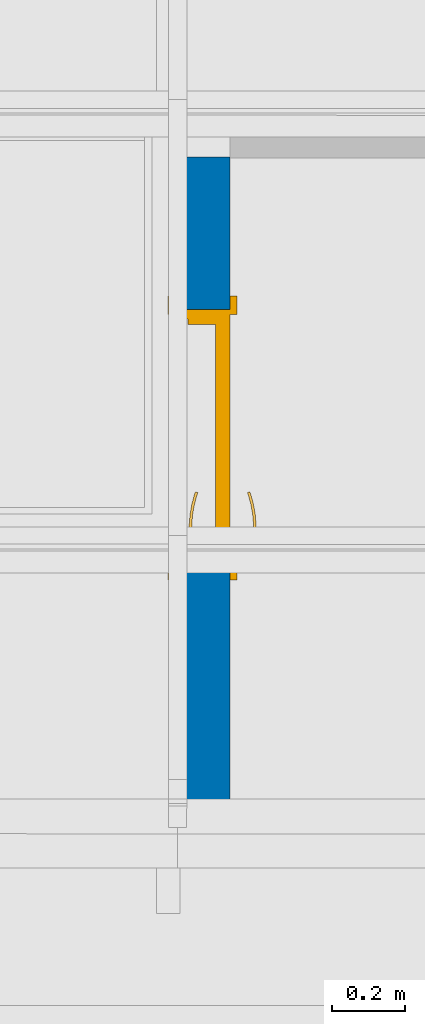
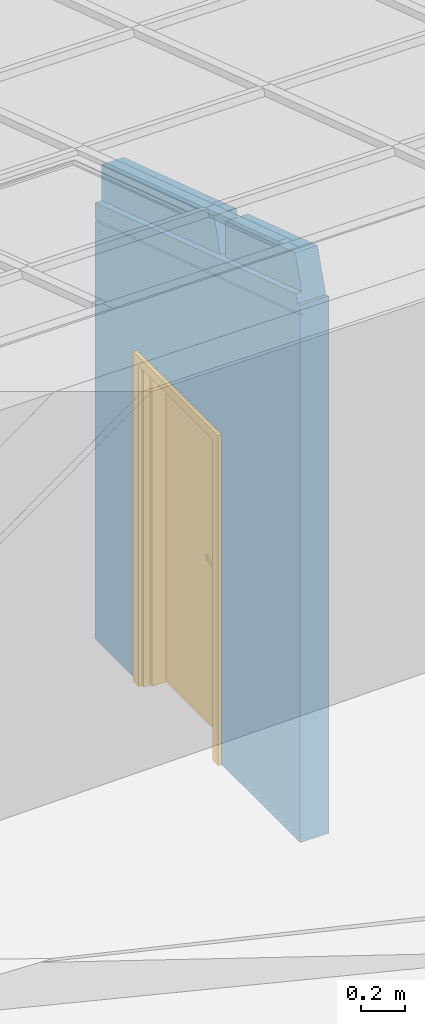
# One storey, part 19 of 47: 1 door, 1 wall, 1 opening.
"""IFC2X3 building model written with IfcOpenShell, lengths in millimetres."""

from ifc_helpers import new_model, entity, si_unit, converted_unit, derived_unit, money_unit, direction, frame, origin_with_axes, origin_2d_with_axis, place, context, subcontext, project, spatial, polyline, rectangle, outline, extrude, boolean, open_shell, faceted_brep, surface_model, material, type_object, element, fill, save


model = new_model("IFC2X3")

# Units and contexts
model_context = context("Model", 3, precision=1e-05, world=origin_with_axes(), true_north=direction((0.0, 1.0)))
body_context = subcontext(model_context, "Body", "Model", "MODEL_VIEW")
ifc_project = project(units=[si_unit("LENGTHUNIT", "METRE", prefix="MILLI"), si_unit("AREAUNIT", "SQUARE_METRE"), si_unit("VOLUMEUNIT", "CUBIC_METRE"), converted_unit("PLANEANGLEUNIT", "DEGREE", entity("IfcPlaneAngleMeasure", 0.0174532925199), si_unit("PLANEANGLEUNIT", "RADIAN"), dimensions=[0, 0, 0, 0, 0, 0, 0]), si_unit("SOLIDANGLEUNIT", "STERADIAN"), money_unit("EUR"), converted_unit("TIMEUNIT", "Year", entity("IfcTimeMeasure", 31556926.0), si_unit("TIMEUNIT", "SECOND"), dimensions=[0, 0, 1, 0, 0, 0, 0]), si_unit("MASSUNIT", "GRAM", prefix="KILO"), si_unit("THERMODYNAMICTEMPERATUREUNIT", "DEGREE_CELSIUS"), si_unit("LUMINOUSINTENSITYUNIT", "LUMEN"), si_unit("ENERGYUNIT", "JOULE", prefix="MEGA"), derived_unit("THERMALCONDUCTANCEUNIT", [(si_unit("POWERUNIT", "WATT"), 1), (si_unit("LENGTHUNIT", "METRE"), -1), (si_unit("THERMODYNAMICTEMPERATUREUNIT", "KELVIN"), -1)]), derived_unit("SPECIFICHEATCAPACITYUNIT", [(si_unit("ENERGYUNIT", "JOULE"), 1), (si_unit("MASSUNIT", "GRAM", prefix="KILO"), -1), (si_unit("THERMODYNAMICTEMPERATUREUNIT", "KELVIN"), -1)]), derived_unit("MASSDENSITYUNIT", [(si_unit("MASSUNIT", "GRAM", prefix="KILO"), 1), (si_unit("VOLUMEUNIT", "CUBIC_METRE"), -1)])], contexts=[model_context])

# Site, building, storey
site_placement = place(None, origin_with_axes())
site = spatial("IfcSite", under=ifc_project, at=site_placement, Name="Site", CompositionType="ELEMENT")
building_placement = place(site_placement, origin_with_axes())
building = spatial("IfcBuilding", under=site, at=building_placement, Name="Building", CompositionType="ELEMENT")
storey_placement = place(building_placement, frame((0.0, 0.0, 6000.0), z_axis=(0.0, 0.0, 1.0), x_axis=(1.0, 0.0, 0.0)))
storey = spatial("IfcBuildingStorey", under=building, at=storey_placement, Name="KATUSEPLAAN", CompositionType="ELEMENT", Elevation=6000.0)

# Wall, opening, door
ifc_material = material(Name="Kivi -Ol.Olev Konstruktsioon")
wall_type = type_object("IfcWallType", Name="ss-2", PredefinedType="NOTDEFINED")
wall_placement = place(storey_placement, frame((66381.9052837, 41015.2369318, -432.549707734), z_axis=(0.0, 0.0, 1.0), x_axis=(0.0, 1.0, 0.0)))
wall = element("IfcWall", 1, at=wall_placement, inside=storey, type_object=wall_type, material=ifc_material, Name="sahti sein", context=body_context, shape_type="CSG", body=[
    boolean("DIFFERENCE", boolean("DIFFERENCE", extrude(outline(polyline([(0.0, 0.0), (1868.00071046, 0.0), (1868.00071046, 150.0), (0.0, 150.0), (0.0, 0.0)])), origin_with_axes(), (0.0, 0.0, 1.0), 3294.8304041), faceted_brep([(1868.00071046, 137.837665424, 2332.30865865), (1868.00071046, 137.109357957, 2330.94418307), (1868.00071046, 136.853610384, 2329.33467438), (1868.00071046, 136.853610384, 2326.71128641), (1868.00071046, 150.0, 2326.71128641), (1868.00071046, 150.0, 2335.29669867), (1868.00071046, 139.744376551, 2333.49934437), (1868.00071046, 138.927654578, 2333.22037209), (0.0, 137.837665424, 2939.25888206), (0.0, 137.109357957, 2937.89440647), (0.0, 136.853610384, 2936.28489778), (0.0, 136.853610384, 2933.66150981), (0.0, 150.0, 2933.66150981), (0.0, 150.0, 2942.24692208), (0.0, 139.744376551, 2940.44956778), (0.0, 138.927654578, 2940.17059549)], [[[0, 1, 2, 3, 4, 5, 6, 7]], [[1, 0, 8, 9]], [[2, 1, 9, 10]], [[3, 2, 10, 11]], [[4, 3, 11, 12]], [[13, 5, 4, 12]], [[6, 5, 13, 14]], [[7, 6, 14, 15]], [[0, 7, 15, 8]], [[14, 13, 12, 11, 10, 9, 8, 15]]])), faceted_brep([(782.86766095, 0.0, 2785.10913276), (842.183791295, 0.0, 2965.61294789), (1868.00071046, 0.0, 2628.51486473), (1868.00071046, 0.0, 3294.8304041), (0.0, 0.0, 3294.8304041), (0.0, 0.0, 2989.74011044), (25.9948707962, 0.0, 2981.19782482), (100.920509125, 0.0, 3209.20264393), (735.366677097, 0.0, 3000.71457643), (735.366677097, 0.0, 2800.71863413), (782.901557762, 117.936588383, 2785.21228351), (842.217637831, 117.761666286, 2965.71594566), (1868.00071046, 117.761666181, 2628.62898495), (1868.00071046, 117.936588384, 2428.63321216), (1868.00071046, 150.0, 2428.6642841), (1868.00071046, 150.0, 3294.8304041), (0.0, 150.0, 3294.8304041), (0.0, 142.98260992, 2989.87867172), (0.0, 150.0, 2989.88547212), (26.0359662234, 142.98260992, 2981.32288155), (41.6454609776, 142.936577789, 3028.82384527), (41.638275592, 117.936588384, 3028.80197956), (100.95435566, 117.761666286, 3209.3056417), (153.453371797, 117.761666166, 3192.05371558), (735.400523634, 117.761666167, 3000.8175742), (735.400518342, 117.743253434, 3000.81755809), (735.400507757, 117.706427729, 3000.81752588), (735.400507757, 117.706427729, 2800.82158358), (735.400518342, 117.743253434, 2800.82161579), (735.400523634, 117.761666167, 2800.82163189), (735.400573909, 117.936588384, 2800.82178488), (759.151065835, 117.936588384, 2793.0170342), (759.160281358, 150.0, 2793.04507779), (26.0379831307, 150.0, 2981.32901917), (94.1465074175, 150.0, 3011.57809697), (41.6474911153, 150.0, 3028.83002315), (94.1372918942, 117.936588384, 3011.55005338)], [[[0, 1, 2, 3, 4, 5, 6, 7, 8, 9]], [[1, 0, 10, 11]], [[12, 2, 1, 11]], [[13, 14, 15, 3, 2, 12]], [[16, 4, 3, 15]], [[17, 5, 4, 16, 18]], [[6, 5, 17, 19]], [[7, 6, 19, 20, 21, 22]], [[8, 7, 22, 23, 24, 25, 26]], [[9, 8, 26, 27]], [[0, 9, 27, 28, 29, 30, 31, 10]], [[13, 12, 11, 10]], [[14, 13, 10, 31, 32]], [[33, 18, 16, 15, 14, 32, 34, 35]], [[17, 18, 33, 19]], [[33, 35, 20, 19]], [[35, 34, 36, 21, 20]], [[21, 36, 23, 22]], [[36, 30, 24, 23]], [[25, 24, 29, 28]], [[26, 25, 28, 27]], [[24, 30, 29]], [[34, 32, 31, 30, 36]]])),
])
opening_placement = place(wall_placement, frame((1102.74663414, 0.0, 0.0), z_axis=(0.0, 0.0, 1.0), x_axis=(1.0, 0.0, 0.0)))
opening = element("IfcOpeningElement", 2, at=opening_placement, cuts=wall, Name="Teenindus luuk * Door 22", context=body_context, shape_type="SweptSolid", body=[
    extrude(rectangle(XDim=700.000000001, YDim=1800.0, at=origin_2d_with_axis()), frame((0.0, 150.0, 900.0), z_axis=(0.0, 1.0, 0.0), x_axis=(1.0, 0.0, 0.0)), (0.0, 0.0, -1.0), 450.0),
    extrude(rectangle(XDim=773.999999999, YDim=1837.0, at=origin_2d_with_axis()), frame((0.0, 150.0, 918.5), z_axis=(0.0, 1.0, 0.0), x_axis=(1.0, 0.0, 0.0)), (0.0, 0.0, 1.0), 150.0),
    extrude(rectangle(XDim=773.999999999, YDim=1837.0, at=origin_2d_with_axis()), frame((0.0, 0.0, 918.5), z_axis=(0.0, -1.0, 0.0), x_axis=(1.0, 0.0, 0.0)), (0.0, 0.0, 1.0), 150.0),
])
door_style = type_object("IfcDoorStyle", Name="VENT UKS 2   700×1\xa0800", ConstructionType="NOTDEFINED", OperationType="SINGLE_SWING_LEFT", ParameterTakesPrecedence=False, Sizeable=False)
door_placement = place(opening_placement, frame((350.0, 0.0, 0.0), z_axis=(0.0, 0.0, 1.0), x_axis=(-1.0, 0.0, 0.0)))
door = element("IfcDoor", 3, at=door_placement, inside=storey, type_object=door_style, Name="Teenindus luuk * Door 22", OverallHeight=1800.0, OverallWidth=700.0, context=body_context, shape_type="SurfaceModel", body=[
    faceted_brep([(675.0, -115.0, 0.0), (700.000000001, -115.0, 0.0), (700.000000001, -150.0, 0.0), (675.0, -150.0, 0.0), (700.000000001, -115.0, 1800.0), (675.0, -115.0, 1775.0), (700.000000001, -150.0, 1800.0), (675.0, -150.0, 1775.0)], [[[0, 1, 2, 3]], [[4, 1, 0, 5]], [[1, 4, 6, 2]], [[3, 2, 6, 7]], [[5, 0, 3, 7]], [[4, 5, 7, 6]]]),
    faceted_brep([(25.0000000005, -115.0, 1775.0), (0.0, -115.0, 1800.0), (0.0, -150.0, 1800.0), (25.0000000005, -150.0, 1775.0), (0.0, -115.0, 0.0), (25.0000000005, -115.0, 0.0), (0.0, -150.0, 0.0), (25.0000000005, -150.0, 0.0)], [[[0, 1, 2, 3]], [[4, 1, 0, 5]], [[1, 4, 6, 2]], [[3, 2, 6, 7]], [[5, 0, 3, 7]], [[4, 5, 7, 6]]]),
    faceted_brep([(25.0000000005, -115.0, 1775.0), (675.0, -115.0, 1775.0), (675.0, -150.0, 1775.0), (25.0000000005, -150.0, 1775.0), (700.000000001, -115.0, 1800.0), (0.0, -115.0, 1800.0), (700.000000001, -150.0, 1800.0), (0.0, -150.0, 1800.0)], [[[0, 1, 2, 3]], [[4, 1, 0, 5]], [[1, 4, 6, 2]], [[3, 2, 6, 7]], [[5, 0, 3, 7]], [[4, 5, 7, 6]]]),
    faceted_brep([(737.0, -150.0, 0.0), (737.0, -169.0, 0.0), (687.000000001, -169.0, 0.0), (687.000000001, -150.0, 0.0), (737.0, -150.0, 1837.0), (737.0, -169.0, 1837.0), (687.000000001, -169.0, 1787.0), (687.000000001, -150.0, 1787.0)], [[[0, 1, 2, 3]], [[4, 5, 1, 0]], [[2, 1, 5, 6]], [[3, 2, 6, 7]], [[4, 0, 3, 7]], [[7, 6, 5, 4]]]),
    faceted_brep([(-36.9999999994, -150.0, 1837.0), (-36.9999999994, -169.0, 1837.0), (12.9999999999, -169.0, 1787.0), (12.9999999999, -150.0, 1787.0), (-36.9999999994, -150.0, 0.0), (-36.9999999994, -169.0, 0.0), (12.9999999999, -169.0, 0.0), (12.9999999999, -150.0, 0.0)], [[[0, 1, 2, 3]], [[4, 5, 1, 0]], [[2, 1, 5, 6]], [[3, 2, 6, 7]], [[4, 0, 3, 7]], [[7, 6, 5, 4]]]),
    faceted_brep([(737.0, -150.0, 1837.0), (737.0, -169.0, 1837.0), (687.000000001, -169.0, 1787.0), (687.000000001, -150.0, 1787.0), (-36.9999999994, -150.0, 1837.0), (-36.9999999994, -169.0, 1837.0), (12.9999999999, -169.0, 1787.0), (12.9999999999, -150.0, 1787.0)], [[[0, 1, 2, 3]], [[4, 5, 1, 0]], [[2, 1, 5, 6]], [[3, 2, 6, 7]], [[4, 0, 3, 7]], [[7, 6, 5, 4]]]),
    faceted_brep([(687.000000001, 19.0, 0.0), (737.0, 19.0, 0.0), (737.0, 0.0, 0.0), (687.000000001, 0.0, 0.0), (737.0, 19.0, 1837.0), (687.000000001, 19.0, 1787.0), (737.0, 0.0, 1837.0), (687.000000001, 0.0, 1787.0)], [[[0, 1, 2, 3]], [[4, 1, 0, 5]], [[1, 4, 6, 2]], [[3, 2, 6, 7]], [[5, 0, 3, 7]], [[4, 5, 7, 6]]]),
    faceted_brep([(12.9999999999, 19.0, 1787.0), (-36.9999999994, 19.0, 1837.0), (-36.9999999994, 0.0, 1837.0), (12.9999999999, 0.0, 1787.0), (-36.9999999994, 19.0, 0.0), (12.9999999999, 19.0, 0.0), (-36.9999999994, 0.0, 0.0), (12.9999999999, 0.0, 0.0)], [[[0, 1, 2, 3]], [[4, 1, 0, 5]], [[1, 4, 6, 2]], [[3, 2, 6, 7]], [[5, 0, 3, 7]], [[4, 5, 7, 6]]]),
    faceted_brep([(687.000000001, 19.0, 1787.0), (737.0, 19.0, 1837.0), (737.0, 0.0, 1837.0), (687.000000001, 0.0, 1787.0), (-36.9999999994, 19.0, 1837.0), (12.9999999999, 19.0, 1787.0), (-36.9999999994, 0.0, 1837.0), (12.9999999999, 0.0, 1787.0)], [[[0, 1, 2, 3]], [[4, 1, 0, 5]], [[1, 4, 6, 2]], [[3, 2, 6, 7]], [[5, 0, 3, 7]], [[4, 5, 7, 6]]]),
    faceted_brep([(660.000000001, -40.0, 1760.0), (660.000000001, -40.0, 0.0), (660.000000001, -115.0, 0.0), (660.000000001, -115.0, 1760.0), (672.0, -40.0, 1760.0), (672.0, -40.0, 0.0), (672.0, 0.0, 0.0), (700.000000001, 0.0, 0.0), (700.000000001, -115.0, 0.0), (700.000000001, -115.0, 1760.0), (672.0, 0.0, 1760.0), (700.000000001, 0.0, 1760.0)], [[[0, 1, 2, 3]], [[0, 4, 5, 1]], [[1, 5, 6, 7, 8, 2]], [[3, 2, 8, 9]], [[10, 4, 0, 3, 9, 11]], [[4, 10, 6, 5]], [[6, 10, 11, 7]], [[8, 7, 11, 9]]]),
    faceted_brep([(40.0, -40.0, 1760.0), (28.0000000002, -40.0, 1760.0), (28.0000000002, 0.0, 1760.0), (0.0, 0.0, 1760.0), (0.0, -115.0, 1760.0), (40.0, -115.0, 1760.0), (40.0, -40.0, 0.0), (28.0000000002, -40.0, 0.0), (28.0000000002, 0.0, 0.0), (0.0, 0.0, 0.0), (0.0, -115.0, 0.0), (40.0, -115.0, 0.0)], [[[0, 1, 2, 3, 4, 5]], [[1, 0, 6, 7]], [[2, 1, 7, 8]], [[2, 8, 9, 3]], [[4, 3, 9, 10]], [[5, 4, 10, 11]], [[6, 0, 5, 11]], [[8, 7, 6, 11, 10, 9]]]),
    faceted_brep([(672.0, 0.0, 1760.0), (672.0, 0.0, 1772.0), (28.0000000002, 0.0, 1772.0), (28.0000000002, 0.0, 1760.0), (0.0, 0.0, 1760.0), (0.0, 0.0, 1800.0), (700.000000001, 0.0, 1800.0), (700.000000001, 0.0, 1760.0), (672.0, -40.0, 1760.0), (672.0, -40.0, 1772.0), (28.0000000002, -40.0, 1772.0), (28.0000000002, -40.0, 1760.0), (40.0, -40.0, 1760.0), (40.0, -115.0, 1760.0), (0.0, -115.0, 1760.0), (0.0, -115.0, 1800.0), (700.000000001, -115.0, 1800.0), (700.000000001, -115.0, 1760.0), (660.000000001, -40.0, 1760.0), (660.000000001, -115.0, 1760.0)], [[[0, 1, 2, 3, 4, 5, 6, 7]], [[1, 0, 8, 9]], [[2, 1, 9, 10]], [[3, 2, 10, 11]], [[3, 11, 12, 13, 14, 4]], [[15, 5, 4, 14]], [[16, 6, 5, 15]], [[17, 7, 6, 16]], [[18, 8, 0, 7, 17, 19]], [[12, 11, 10, 9, 8, 18]], [[12, 18, 19, 13]], [[14, 13, 19, 17, 16, 15]]]),
    faceted_brep([(622.0, -111.0, 990.0), (622.0, -104.0, 990.0), (627.0, -104.0, 991.339745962), (627.0, -111.0, 991.339745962), (597.000000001, -111.0, 990.0), (597.000000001, -104.0, 990.0), (597.000000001, -104.0, 1010.0), (622.0, -104.0, 1010.0), (627.0, -104.0, 1008.66025404), (630.660254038, -104.0, 1005.0), (632.000000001, -104.0, 1000.0), (630.660254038, -104.0, 995.0), (630.660254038, -111.0, 995.0), (632.000000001, -111.0, 1000.0), (630.660254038, -111.0, 1005.0), (627.0, -111.0, 1008.66025404), (622.0, -111.0, 1010.0), (597.000000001, -111.0, 1010.0)], [[[0, 1, 2, 3]], [[4, 5, 1, 0]], [[2, 1, 5, 6, 7, 8, 9, 10, 11]], [[3, 2, 11, 12]], [[4, 0, 3, 12, 13, 14, 15, 16, 17]], [[17, 6, 5, 4]], [[16, 7, 6, 17]], [[15, 8, 7, 16]], [[14, 9, 8, 15]], [[13, 10, 9, 14]], [[12, 11, 10, 13]]]),
    surface_model("IfcShellBasedSurfaceModel", [(583.596090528, -111.0, 1009.60730092), (597.000000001, -104.0, 1010.0), (583.901717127, -104.0, 1009.60730092), (597.000000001, -111.0, 1010.0), (597.000000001, -104.0, 990.0), (583.901717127, -104.0, 990.392699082), (556.890283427, -108.663544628, 1008.82190275), (583.596090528, -111.0, 990.392699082), (597.000000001, -111.0, 990.0), (557.804837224, -101.716818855, 991.178097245), (557.804837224, -101.716818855, 1008.82190275), (556.890283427, -108.663544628, 991.178097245), (532.006256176, -97.1678329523, 991.963495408), (532.006256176, -97.1678329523, 1008.03650459), (530.489735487, -104.008415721, 1008.03650459), (530.489735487, -104.008415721, 991.963495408), (506.702316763, -90.3876628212, 992.748893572), (506.702316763, -90.3876628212, 1007.25110643), (504.59537082, -97.0700416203, 1007.25110643), (504.59537082, -97.0700416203, 992.748893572), (498.829442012, -87.5221707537, 993.0), (498.829442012, -87.5221707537, 1007.0), (496.538795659, -94.1376880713, 1007.0), (496.538795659, -94.1376880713, 993.0)], [open_shell([[[0, 1, 2]], [[3, 1, 0]], [[1, 4, 5, 2]], [[0, 2, 6]], [[3, 0, 7, 8]], [[8, 5, 4]], [[2, 5, 9, 10]], [[6, 2, 10]], [[0, 6, 11, 7]], [[7, 5, 8]], [[7, 9, 5]], [[10, 9, 12, 13]], [[6, 10, 14]], [[6, 14, 15, 11]], [[11, 9, 7]], [[11, 12, 9]], [[13, 12, 16, 17]], [[14, 10, 13]], [[14, 18, 19, 15]], [[15, 12, 11]], [[15, 16, 12]], [[17, 16, 20, 21]], [[18, 13, 17]], [[14, 13, 18]], [[18, 22, 23, 19]], [[19, 16, 15]], [[19, 20, 16]], [[21, 20, 23, 22]], [[22, 17, 21]], [[18, 17, 22]], [[23, 20, 19]]])]),
    faceted_brep([(627.0, 64.0, 991.339745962), (622.0, 64.0, 990.0), (622.0, 71.0, 990.0), (627.0, 71.0, 991.339745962), (597.000000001, 64.0, 990.0), (630.660254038, 64.0, 995.0), (632.000000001, 64.0, 1000.0), (630.660254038, 64.0, 1005.0), (627.0, 64.0, 1008.66025404), (622.0, 64.0, 1010.0), (597.000000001, 64.0, 1010.0), (597.000000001, 71.0, 990.0), (597.000000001, 71.0, 1010.0), (622.0, 71.0, 1010.0), (627.0, 71.0, 1008.66025404), (630.660254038, 71.0, 1005.0), (632.000000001, 71.0, 1000.0), (630.660254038, 71.0, 995.0)], [[[0, 1, 2, 3]], [[4, 1, 0, 5, 6, 7, 8, 9, 10]], [[1, 4, 11, 2]], [[3, 2, 11, 12, 13, 14, 15, 16, 17]], [[5, 0, 3, 17]], [[6, 5, 17, 16]], [[7, 6, 16, 15]], [[8, 7, 15, 14]], [[9, 8, 14, 13]], [[10, 9, 13, 12]], [[4, 10, 12, 11]]]),
    surface_model("IfcShellBasedSurfaceModel", [(583.901717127, 64.0, 1009.60730092), (597.000000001, 64.0, 1010.0), (583.596090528, 71.0, 1009.60730092), (583.901717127, 64.0, 990.392699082), (597.000000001, 64.0, 990.0), (597.000000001, 71.0, 1010.0), (556.890283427, 68.6635446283, 1008.82190275), (557.804837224, 61.7168188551, 1008.82190275), (557.804837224, 61.7168188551, 991.178097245), (597.000000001, 71.0, 990.0), (583.596090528, 71.0, 990.392699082), (556.890283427, 68.6635446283, 991.178097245), (532.006256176, 57.1678329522, 1008.03650459), (532.006256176, 57.1678329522, 991.963495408), (530.489735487, 64.0084157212, 1008.03650459), (530.489735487, 64.0084157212, 991.963495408), (506.702316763, 50.3876628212, 1007.25110643), (506.702316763, 50.3876628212, 992.748893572), (504.59537082, 57.0700416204, 992.748893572), (504.59537082, 57.0700416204, 1007.25110643), (498.829442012, 47.5221707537, 1007.0), (498.829442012, 47.5221707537, 993.0), (496.538795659, 54.1376880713, 993.0), (496.538795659, 54.1376880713, 1007.0)], [open_shell([[[0, 1, 2]], [[1, 0, 3, 4]], [[2, 1, 5]], [[6, 0, 2]], [[0, 7, 8, 3]], [[4, 3, 9]], [[5, 9, 10, 2]], [[7, 0, 6]], [[2, 10, 11, 6]], [[7, 12, 13, 8]], [[3, 8, 10]], [[9, 3, 10]], [[14, 7, 6]], [[10, 8, 11]], [[6, 11, 15, 14]], [[12, 7, 14]], [[12, 16, 17, 13]], [[8, 13, 11]], [[11, 13, 15]], [[14, 15, 18, 19]], [[19, 12, 14]], [[16, 12, 19]], [[16, 20, 21, 17]], [[13, 17, 15]], [[15, 17, 18]], [[19, 18, 22, 23]], [[23, 16, 19]], [[20, 16, 23]], [[20, 23, 22, 21]], [[17, 21, 18]], [[18, 21, 22]]])]),
    faceted_brep([(617.0, 13.0, 1008.66025404), (622.0, 13.0, 1010.0), (622.0, 64.0, 1010.0), (617.0, 64.0, 1008.66025404), (627.0, 13.0, 1008.66025404), (613.339745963, 13.0, 1005.0), (612.0, 13.0, 1000.0), (613.339745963, 13.0, 995.0), (617.0, 13.0, 991.339745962), (622.0, 13.0, 990.0), (627.0, 13.0, 991.339745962), (630.660254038, 13.0, 995.0), (632.000000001, 13.0, 1000.0), (630.660254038, 13.0, 1005.0), (627.0, 64.0, 1008.66025404), (630.660254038, 64.0, 1005.0), (632.000000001, 64.0, 1000.0), (630.660254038, 64.0, 995.0), (627.0, 64.0, 991.339745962), (622.0, 64.0, 990.0), (617.0, 64.0, 991.339745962), (613.339745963, 64.0, 995.0), (612.0, 64.0, 1000.0), (613.339745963, 64.0, 1005.0)], [[[0, 1, 2, 3]], [[4, 1, 0, 5, 6, 7, 8, 9, 10, 11, 12, 13]], [[1, 4, 14, 2]], [[3, 2, 14, 15, 16, 17, 18, 19, 20, 21, 22, 23]], [[5, 0, 3, 23]], [[6, 5, 23, 22]], [[7, 6, 22, 21]], [[8, 7, 21, 20]], [[9, 8, 20, 19]], [[10, 9, 19, 18]], [[11, 10, 18, 17]], [[12, 11, 17, 16]], [[13, 12, 16, 15]], [[4, 13, 15, 14]]]),
    faceted_brep([(28.0000000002, -40.0, 0.0), (28.0000000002, 0.0, 0.0), (672.0, 0.0, 0.0), (672.0, -40.0, 0.0), (28.0000000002, -40.0, 1772.0), (28.0000000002, 0.0, 1772.0), (672.0, 0.0, 1772.0), (672.0, -40.0, 1772.0)], [[[0, 1, 2, 3]], [[4, 5, 1, 0]], [[2, 1, 5, 6]], [[3, 2, 6, 7]], [[4, 0, 3, 7]], [[7, 6, 5, 4]]]),
    faceted_brep([(650.500000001, -43.0, 1060.0), (650.500000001, -40.0, 1060.0), (593.5, -40.0, 1060.0), (593.5, -43.0, 1060.0), (650.500000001, -43.0, 870.0), (650.500000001, -40.0, 870.0), (593.5, -40.0, 870.0), (593.5, -43.0, 870.0)], [[[0, 1, 2, 3]], [[4, 5, 1, 0]], [[2, 1, 5, 6]], [[3, 2, 6, 7]], [[4, 0, 3, 7]], [[7, 6, 5, 4]]]),
    faceted_brep([(610.741669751, -43.0, 993.5), (611.607695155, -53.0, 994.0), (610.000000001, -53.0, 1000.0), (609.0, -43.0, 1000.0), (615.500000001, -43.0, 988.741669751), (616.0, -53.0, 989.607695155), (611.607695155, -53.0, 1006.0), (622.0, -53.0, 988.0), (628.000000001, -53.0, 989.607695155), (632.392304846, -53.0, 994.0), (634.0, -53.0, 1000.0), (632.392304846, -53.0, 1006.0), (628.000000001, -53.0, 1010.39230485), (622.0, -53.0, 1012.0), (616.0, -53.0, 1010.39230485), (610.741669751, -43.0, 1006.5), (615.500000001, -43.0, 1011.25833025), (622.0, -43.0, 1013.0), (628.500000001, -43.0, 1011.25833025), (633.258330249, -43.0, 1006.5), (635.0, -43.0, 1000.0), (633.258330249, -43.0, 993.5), (628.500000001, -43.0, 988.741669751), (622.0, -43.0, 987.0)], [[[0, 1, 2, 3]], [[4, 5, 1, 0]], [[6, 2, 1, 5, 7, 8, 9, 10, 11, 12, 13, 14]], [[3, 2, 6, 15]], [[0, 3, 15, 16, 17, 18, 19, 20, 21, 22, 23, 4]], [[23, 7, 5, 4]], [[22, 8, 7, 23]], [[21, 9, 8, 22]], [[20, 10, 9, 21]], [[19, 11, 10, 20]], [[18, 12, 11, 19]], [[17, 13, 12, 18]], [[16, 14, 13, 17]], [[15, 6, 14, 16]]]),
    faceted_brep([(602.947441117, -43.0, 894.0), (604.679491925, -47.0, 895.0), (602.000000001, -47.0, 905.0), (600.0, -43.0, 905.0), (611.000000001, -43.0, 885.947441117), (612.0, -47.0, 887.679491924), (604.679491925, -47.0, 915.0), (622.0, -47.0, 885.0), (632.000000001, -47.0, 887.679491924), (639.320508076, -47.0, 895.0), (642.000000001, -47.0, 905.0), (639.320508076, -47.0, 915.0), (632.000000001, -47.0, 922.320508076), (622.0, -47.0, 925.0), (612.0, -47.0, 922.320508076), (602.947441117, -43.0, 916.0), (611.000000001, -43.0, 924.052558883), (622.0, -43.0, 927.0), (633.000000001, -43.0, 924.052558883), (641.052558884, -43.0, 916.0), (644.0, -43.0, 905.0), (641.052558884, -43.0, 894.0), (633.000000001, -43.0, 885.947441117), (622.0, -43.0, 883.0)], [[[0, 1, 2, 3]], [[4, 5, 1, 0]], [[6, 2, 1, 5, 7, 8, 9, 10, 11, 12, 13, 14]], [[3, 2, 6, 15]], [[0, 3, 15, 16, 17, 18, 19, 20, 21, 22, 23, 4]], [[23, 7, 5, 4]], [[22, 8, 7, 23]], [[21, 9, 8, 22]], [[20, 10, 9, 21]], [[19, 11, 10, 20]], [[18, 12, 11, 19]], [[17, 13, 12, 18]], [[16, 14, 13, 17]], [[15, 6, 14, 16]]]),
    faceted_brep([(616.343145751, -47.0, 908.343145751), (617.050252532, -49.0, 909.050252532), (615.000000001, -49.0, 914.0), (614.0, -47.0, 914.0), (622.0, -47.0, 906.0), (622.0, -49.0, 907.0), (617.050252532, -49.0, 918.949747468), (626.949747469, -49.0, 909.050252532), (629.000000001, -49.0, 914.0), (626.949747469, -49.0, 918.949747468), (622.0, -49.0, 921.0), (616.343145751, -47.0, 919.656854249), (622.0, -47.0, 922.0), (627.65685425, -47.0, 919.656854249), (630.0, -47.0, 914.0), (627.65685425, -47.0, 908.343145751)], [[[0, 1, 2, 3]], [[4, 5, 1, 0]], [[6, 2, 1, 5, 7, 8, 9, 10]], [[3, 2, 6, 11]], [[0, 3, 11, 12, 13, 14, 15, 4]], [[15, 7, 5, 4]], [[14, 8, 7, 15]], [[13, 9, 8, 14]], [[12, 10, 9, 13]], [[11, 6, 10, 12]]]),
    faceted_brep([(622.0, -104.0, 1010.0), (622.0, -53.0, 1010.0), (617.0, -53.0, 1008.66025404), (617.0, -104.0, 1008.66025404), (627.0, -104.0, 1008.66025404), (627.0, -53.0, 1008.66025404), (630.660254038, -53.0, 1005.0), (632.000000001, -53.0, 1000.0), (630.660254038, -53.0, 995.0), (627.0, -53.0, 991.339745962), (622.0, -53.0, 990.0), (617.0, -53.0, 991.339745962), (613.339745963, -53.0, 995.0), (612.0, -53.0, 1000.0), (613.339745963, -53.0, 1005.0), (613.339745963, -104.0, 1005.0), (612.0, -104.0, 1000.0), (613.339745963, -104.0, 995.0), (617.0, -104.0, 991.339745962), (622.0, -104.0, 990.0), (627.0, -104.0, 991.339745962), (630.660254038, -104.0, 995.0), (632.000000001, -104.0, 1000.0), (630.660254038, -104.0, 1005.0)], [[[0, 1, 2, 3]], [[4, 5, 1, 0]], [[2, 1, 5, 6, 7, 8, 9, 10, 11, 12, 13, 14]], [[3, 2, 14, 15]], [[4, 0, 3, 15, 16, 17, 18, 19, 20, 21, 22, 23]], [[23, 6, 5, 4]], [[22, 7, 6, 23]], [[21, 8, 7, 22]], [[20, 9, 8, 21]], [[19, 10, 9, 20]], [[18, 11, 10, 19]], [[17, 12, 11, 18]], [[16, 13, 12, 17]], [[15, 14, 13, 16]]]),
    faceted_brep([(593.5, 0.0, 1060.0), (650.500000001, 0.0, 1060.0), (650.500000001, 3.00000000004, 1060.0), (593.5, 3.00000000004, 1060.0), (650.500000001, 0.0, 870.0), (593.5, 0.0, 870.0), (650.500000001, 3.00000000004, 870.0), (593.5, 3.00000000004, 870.0)], [[[0, 1, 2, 3]], [[4, 1, 0, 5]], [[1, 4, 6, 2]], [[3, 2, 6, 7]], [[5, 0, 3, 7]], [[4, 5, 7, 6]]]),
    faceted_brep([(610.000000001, 13.0, 1000.0), (611.607695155, 13.0, 994.0), (610.741669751, 3.00000000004, 993.5), (609.0, 3.00000000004, 1000.0), (611.607695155, 13.0, 1006.0), (616.0, 13.0, 1010.39230485), (622.0, 13.0, 1012.0), (628.000000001, 13.0, 1010.39230485), (632.392304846, 13.0, 1006.0), (634.0, 13.0, 1000.0), (632.392304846, 13.0, 994.0), (628.000000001, 13.0, 989.607695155), (622.0, 13.0, 988.0), (616.0, 13.0, 989.607695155), (615.500000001, 3.00000000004, 988.741669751), (610.741669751, 3.00000000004, 1006.5), (622.0, 3.00000000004, 987.0), (628.500000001, 3.00000000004, 988.741669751), (633.258330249, 3.00000000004, 993.5), (635.0, 3.00000000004, 1000.0), (633.258330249, 3.00000000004, 1006.5), (628.500000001, 3.00000000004, 1011.25833025), (622.0, 3.00000000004, 1013.0), (615.500000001, 3.00000000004, 1011.25833025)], [[[0, 1, 2, 3]], [[1, 0, 4, 5, 6, 7, 8, 9, 10, 11, 12, 13]], [[1, 13, 14, 2]], [[15, 3, 2, 14, 16, 17, 18, 19, 20, 21, 22, 23]], [[4, 0, 3, 15]], [[5, 4, 15, 23]], [[6, 5, 23, 22]], [[7, 6, 22, 21]], [[8, 7, 21, 20]], [[9, 8, 20, 19]], [[10, 9, 19, 18]], [[11, 10, 18, 17]], [[12, 11, 17, 16]], [[13, 12, 16, 14]]]),
    faceted_brep([(602.000000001, 6.99999999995, 905.0), (604.679491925, 6.99999999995, 895.0), (602.947441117, 3.00000000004, 894.0), (600.0, 3.00000000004, 905.0), (604.679491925, 6.99999999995, 915.0), (612.0, 6.99999999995, 922.320508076), (622.0, 6.99999999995, 925.0), (632.000000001, 6.99999999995, 922.320508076), (639.320508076, 6.99999999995, 915.0), (642.000000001, 6.99999999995, 905.0), (639.320508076, 6.99999999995, 895.0), (632.000000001, 6.99999999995, 887.679491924), (622.0, 6.99999999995, 885.0), (612.0, 6.99999999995, 887.679491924), (611.000000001, 3.00000000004, 885.947441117), (602.947441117, 3.00000000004, 916.0), (622.0, 3.00000000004, 883.0), (633.000000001, 3.00000000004, 885.947441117), (641.052558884, 3.00000000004, 894.0), (644.0, 3.00000000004, 905.0), (641.052558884, 3.00000000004, 916.0), (633.000000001, 3.00000000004, 924.052558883), (622.0, 3.00000000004, 927.0), (611.000000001, 3.00000000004, 924.052558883)], [[[0, 1, 2, 3]], [[1, 0, 4, 5, 6, 7, 8, 9, 10, 11, 12, 13]], [[1, 13, 14, 2]], [[15, 3, 2, 14, 16, 17, 18, 19, 20, 21, 22, 23]], [[4, 0, 3, 15]], [[5, 4, 15, 23]], [[6, 5, 23, 22]], [[7, 6, 22, 21]], [[8, 7, 21, 20]], [[9, 8, 20, 19]], [[10, 9, 19, 18]], [[11, 10, 18, 17]], [[12, 11, 17, 16]], [[13, 12, 16, 14]]]),
    faceted_brep([(615.000000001, 9.00000000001, 914.0), (617.050252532, 9.00000000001, 909.050252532), (616.343145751, 6.99999999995, 908.343145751), (614.0, 6.99999999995, 914.0), (617.050252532, 9.00000000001, 918.949747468), (622.0, 9.00000000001, 921.0), (626.949747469, 9.00000000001, 918.949747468), (629.000000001, 9.00000000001, 914.0), (626.949747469, 9.00000000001, 909.050252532), (622.0, 9.00000000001, 907.0), (622.0, 6.99999999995, 906.0), (616.343145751, 6.99999999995, 919.656854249), (627.65685425, 6.99999999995, 908.343145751), (630.0, 6.99999999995, 914.0), (627.65685425, 6.99999999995, 919.656854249), (622.0, 6.99999999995, 922.0)], [[[0, 1, 2, 3]], [[1, 0, 4, 5, 6, 7, 8, 9]], [[1, 9, 10, 2]], [[11, 3, 2, 10, 12, 13, 14, 15]], [[4, 0, 3, 11]], [[5, 4, 11, 15]], [[6, 5, 15, 14]], [[7, 6, 14, 13]], [[8, 7, 13, 12]], [[9, 8, 12, 10]]]),
])
fill(opening, door)

save(model, "model.ifc")
